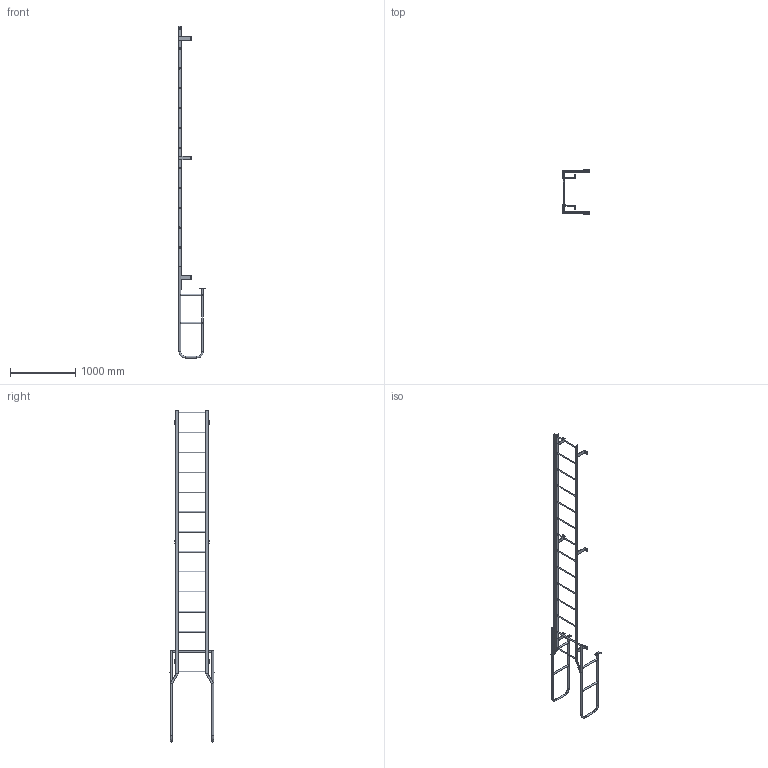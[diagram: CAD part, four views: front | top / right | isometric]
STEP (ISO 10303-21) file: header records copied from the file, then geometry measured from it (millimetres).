
FILE_DESCRIPTION(/* description */ (''),/* implementation_level */ '2;1');
FILE_NAME(/* name */ 'P:\MIKEL & KAREN\3570232 F14W SIMPLIFIED PART.stp',/* time_stamp */ '2018-07-02T15:48:12-04:00',/* author */ ('stephanie'),/* organization */ (''),/* preprocessor_version */ 'ST-DEVELOPER v16.1',/* originating_system */ 'Autodesk Inventor 2016',/* authorisation */ '');
FILE_SCHEMA (('AUTOMOTIVE_DESIGN { 1 0 10303 214 3 1 1 }'));
Length unit declared in the file: centimetre
Products named in the file (1): 3570232 F14W SIMPLIFIED PART
Bounding box: 425.58 x 685.8 x 5080 mm (x, y, z)
Volume: 8030265.2 mm3; surface area: 3179422.6 mm2
Topology: 22 solids, 22 shells, 292 faces, 746 edges, 492 vertices
Faces by surface type: plane 151, cylinder 133, torus 8
Full cylindrical faces by diameter (mm): 10.319 x4, 14.287 x6, 19.05 x14, 22.098 x10, 22.225 x28, 25.4 x10
Entity records: 9009 total; most frequent: CARTESIAN_POINT 1773, DIRECTION 1478, ORIENTED_EDGE 1264, EDGE_CURVE 626, AXIS2_PLACEMENT_3D 575, EDGE_LOOP 456, VERTEX_POINT 454, LINE 328
